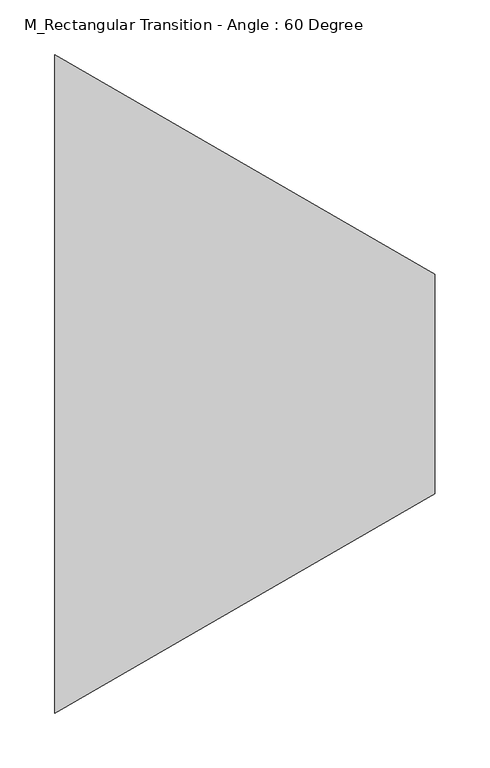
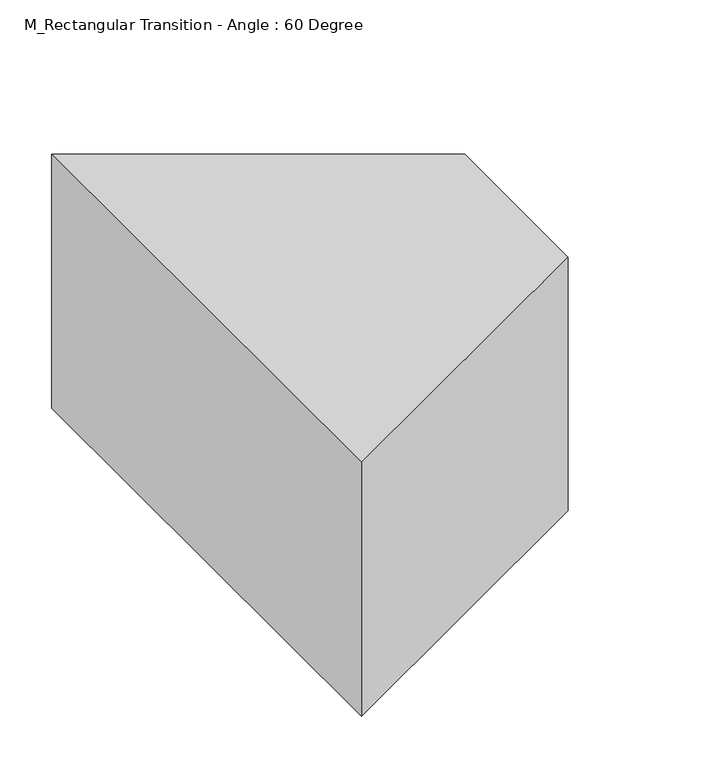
"""IFC4 building model written with IfcOpenShell, lengths in millimetres: duct fitting geometry, M_Rectangular Transition - Angle : 60 Degree."""

import ifcopenshell
import ifcopenshell.guid

model = None  # the IFC model being written
_history = None  # IfcOwnerHistory: only IFC2X3 demands one
_inside = {}  # id of a spatial element -> (the spatial element, [elements in it])
_under = {}  # id of a project, library or spatial element -> (it, [spatial elements below it])
_declared = {}  # id of a project -> (the project, [libraries it declares])
_typed = {}  # id of a type object -> (the type object, [elements of that type])
_made_of = {}  # id of a material, layer set ... -> (it, [elements and type objects made of it])


def new_model(schema):
    """Start an empty IFC model of exactly this schema.

    Asked for "IFC4X3", IfcOpenShell would pick the latest addendum, in which some entities
    have other attributes; the version numbers below select the first issue.
    IFC2X3 requires an IfcOwnerHistory on every rooted entity: one is made here for all.
    """
    global model, _history
    if schema == "IFC4X3":
        model = ifcopenshell.file(schema_version=(4, 3, 0, 0))
    else:
        model = ifcopenshell.file(schema=schema)
    _inside.clear()
    _under.clear()
    _declared.clear()
    _typed.clear()
    _made_of.clear()
    _history = None
    if model.schema == "IFC2X3":
        org = make("IfcOrganization", Name="unknown")
        user = make(
            "IfcPersonAndOrganization",
            ThePerson=make("IfcPerson", FamilyName="unknown"),
            TheOrganization=org,
        )
        app = make(
            "IfcApplication",
            ApplicationDeveloper=org,
            Version="unknown",
            ApplicationFullName="unknown",
            ApplicationIdentifier="unknown",
        )
        _history = make(
            "IfcOwnerHistory",
            OwningUser=user,
            OwningApplication=app,
            ChangeAction="ADDED",
            CreationDate=0,
        )
    return model


def make(cls, **values):
    """One entity of the class cls with the attributes given. An attribute that is None is left unset."""
    return model.create_entity(
        cls, **{name: value for name, value in values.items() if value is not None}
    )


def rooted(cls, **values):
    """An entity with a GlobalId (a new one), such as an element, a storey or a relation."""
    return make(cls, GlobalId=ifcopenshell.guid.new(), OwnerHistory=_history, **values)


def si_unit(unit_type, name, prefix=None):
    """IfcSIUnit, for example si_unit("LENGTHUNIT", "METRE", prefix="MILLI")."""
    return make("IfcSIUnit", UnitType=unit_type, Prefix=prefix, Name=name)


def assignment(units):
    """IfcUnitAssignment: the units of a project."""
    return None if units is None else make("IfcUnitAssignment", Units=units)


def point(xyz):
    """IfcCartesianPoint."""
    return None if xyz is None else make("IfcCartesianPoint", Coordinates=xyz)


def direction(xyz):
    """IfcDirection."""
    return None if xyz is None else make("IfcDirection", DirectionRatios=xyz)


def frame(location, z_axis=None, x_axis=None):
    """IfcAxis2Placement3D, a coordinate frame: its origin and axes. An axis left out is left unset."""
    return make(
        "IfcAxis2Placement3D",
        Location=point(location),
        Axis=direction(z_axis),
        RefDirection=direction(x_axis),
    )


def origin():
    """The frame at (0, 0, 0) with its axes left unset."""
    return frame((0.0, 0.0, 0.0))


def place(relative_to, where):
    """IfcLocalPlacement: puts the frame where relative to a parent placement (None: the world)."""
    return make(
        "IfcLocalPlacement", PlacementRelTo=relative_to, RelativePlacement=where
    )


def context(
    kind, dimensions, precision=None, world=None, true_north=None, identifier=None
):
    """IfcGeometricRepresentationContext, for example the 3D "Model" context."""
    return make(
        "IfcGeometricRepresentationContext",
        ContextIdentifier=identifier,
        ContextType=kind,
        CoordinateSpaceDimension=dimensions,
        Precision=precision,
        WorldCoordinateSystem=world,
        TrueNorth=true_north,
    )


def project(units=None, contexts=None):
    """IfcProject with its units and contexts."""
    return rooted(
        "IfcProject",
        Name="project",
        RepresentationContexts=contexts,
        UnitsInContext=assignment(units),
    )


def spatial(cls, under=None, at=None, **own):
    """A site, building, storey or space (cls), placed at a placement, below another one or the project."""
    s = rooted(cls, ObjectPlacement=at, **own)
    if under is not None:
        _under.setdefault(under.id(), (under, []))[1].append(s)
    return s


def polyline(points):
    """IfcPolyline through the points."""
    return make("IfcPolyline", Points=[point(p) for p in points])


def outline(outer, holes=None, kind="AREA"):
    """IfcArbitraryClosedProfileDef: a profile drawn as a closed curve; with holes, ...WithVoids."""
    if holes is None:
        return make("IfcArbitraryClosedProfileDef", ProfileType=kind, OuterCurve=outer)
    return make(
        "IfcArbitraryProfileDefWithVoids",
        ProfileType=kind,
        OuterCurve=outer,
        InnerCurves=holes,
    )


def extrude(swept, where, along, depth):
    """IfcExtrudedAreaSolid: the profile swept, set in the frame where, extruded along a direction by depth."""
    return make(
        "IfcExtrudedAreaSolid",
        SweptArea=swept,
        Position=where,
        ExtrudedDirection=direction(along),
        Depth=depth,
    )


def shape(context_of_items, identifier, shape_type, items):
    """IfcShapeRepresentation: the items that make up one representation, for example the "Body"."""
    return make(
        "IfcShapeRepresentation",
        ContextOfItems=context_of_items,
        RepresentationIdentifier=identifier,
        RepresentationType=shape_type,
        Items=items,
    )


def source(mapping_origin, context_of_items, identifier, shape_type, items):
    """IfcRepresentationMap: a shape defined once, which mapped items show again and again."""
    return make(
        "IfcRepresentationMap",
        MappingOrigin=mapping_origin,
        MappedRepresentation=shape(context_of_items, identifier, shape_type, items),
    )


def transform(
    local_origin,
    x_axis=None,
    y_axis=None,
    z_axis=None,
    scale=None,
    scale2=None,
    scale3=None,
    uniform=True,
):
    """IfcCartesianTransformationOperator3D, or its non-uniform kind. x_axis, y_axis, z_axis: its Axis1, 2, 3."""
    if uniform:
        return make(
            "IfcCartesianTransformationOperator3D",
            Axis1=direction(x_axis),
            Axis2=direction(y_axis),
            LocalOrigin=point(local_origin),
            Scale=scale,
            Axis3=direction(z_axis),
        )
    return make(
        "IfcCartesianTransformationOperator3DnonUniform",
        Axis1=direction(x_axis),
        Axis2=direction(y_axis),
        LocalOrigin=point(local_origin),
        Scale=scale,
        Axis3=direction(z_axis),
        Scale2=scale2,
        Scale3=scale3,
    )


def mapped(mapping_source, mapping_target):
    """IfcMappedItem: shows the shape of a source again, moved by a transform."""
    return make(
        "IfcMappedItem", MappingSource=mapping_source, MappingTarget=mapping_target
    )


def made_of(thing, what):
    """Note that an element or type object is made of a material, layer set ...; save() writes the relation."""
    if what is not None:
        _made_of.setdefault(what.id(), (what, []))[1].append(thing)
    return thing


def element(
    cls,
    number,
    at=None,
    inside=None,
    cuts=None,
    type_object=None,
    material=None,
    context=None,
    identifier="Body",
    shape_type=None,
    held_by="IfcProductDefinitionShape",
    body=None,
    shapes=None,
    **own,
):
    """One element of the class cls, such as IfcWall. Its Tag is "e" and its number.

    at: its placement. inside: the storey or other place that contains it. cuts: it is an
    opening in that element (IfcRelVoidsElement). A single representation is given by context,
    identifier, shape_type and body (its items); several are given by shapes. held_by: the class
    of the entity that holds the representations. save() writes the other relations.
    """
    e = rooted(cls, Tag="e%d" % number, ObjectPlacement=at, **own)
    if body is not None:
        shapes = [shape(context, identifier, shape_type, body)]
    if shapes is not None:
        e.Representation = make(held_by, Representations=shapes)
    if inside is not None:
        _inside.setdefault(inside.id(), (inside, []))[1].append(e)
    if cuts is not None:
        rooted(
            "IfcRelVoidsElement", RelatingBuildingElement=cuts, RelatedOpeningElement=e
        )
    if type_object is not None:
        _typed.setdefault(type_object.id(), (type_object, []))[1].append(e)
    return made_of(e, material)


def aggregate(whole, parts):
    """IfcRelAggregates: a whole, such as a stair, and the parts it consists of."""
    return rooted("IfcRelAggregates", RelatingObject=whole, RelatedObjects=parts)


def save(model, path):
    """Write the relations noted so far, then the file.

    IfcRelAggregates (storeys below a building ...), IfcRelContainedInSpatialStructure (elements
    in a storey), IfcRelDefinesByType, IfcRelAssociatesMaterial and IfcRelDeclares: one each for
    every whole, place, type object, material and project.
    """
    for whole, parts in _under.values():
        aggregate(whole, parts)
    for where, things in _inside.values():
        rooted(
            "IfcRelContainedInSpatialStructure",
            RelatedElements=things,
            RelatingStructure=where,
        )
    for kind, things in _typed.values():
        rooted("IfcRelDefinesByType", RelatedObjects=things, RelatingType=kind)
    for what, things in _made_of.values():
        rooted("IfcRelAssociatesMaterial", RelatedObjects=things, RelatingMaterial=what)
    for by, libraries in _declared.values():
        rooted("IfcRelDeclares", RelatingContext=by, RelatedDefinitions=libraries)
    model.write(path)


def m_rectangular_transition_angle_60_degree_07892ac1(model_context):
    return source(origin(), model_context, "Body", "SweptSolid", [
        extrude(outline(polyline([(0.0, -300.0), (0.0, 300.0), (346.4101615, 100.0), (346.4101615, -100.0), (0.0, -300.0)])), frame((0.0, 0.0, -150.0), z_axis=(0.0, 0.0, 1.0), x_axis=(1.0, 0.0, 0.0)), (0.0, 0.0, 1.0), 300.0),
    ])


if __name__ == "__main__":
    model = new_model("IFC4")
    model_context = context("Model", 3, world=origin())
    ifc_project = project(units=[si_unit("LENGTHUNIT", "METRE", prefix="MILLI")], contexts=[model_context])
    site = spatial("IfcSite", under=ifc_project)
    building = spatial("IfcBuilding", under=site)
    placement = place(None, origin())
    m_rectangular_transition_angle_60_degree_shape = m_rectangular_transition_angle_60_degree_07892ac1(model_context)
    element("IfcDuctFitting", 1, ObjectType="M_Rectangular Transition - Angle : 60 Degree", at=placement, inside=building, context=model_context, shape_type="MappedRepresentation", body=[
        mapped(m_rectangular_transition_angle_60_degree_shape, transform((0.0, 0.0, 0.0), x_axis=(1.0, 0.0, 0.0), y_axis=(0.0, 1.0, 0.0), z_axis=(0.0, 0.0, 1.0))),
    ])
    save(model, "model.ifc")
